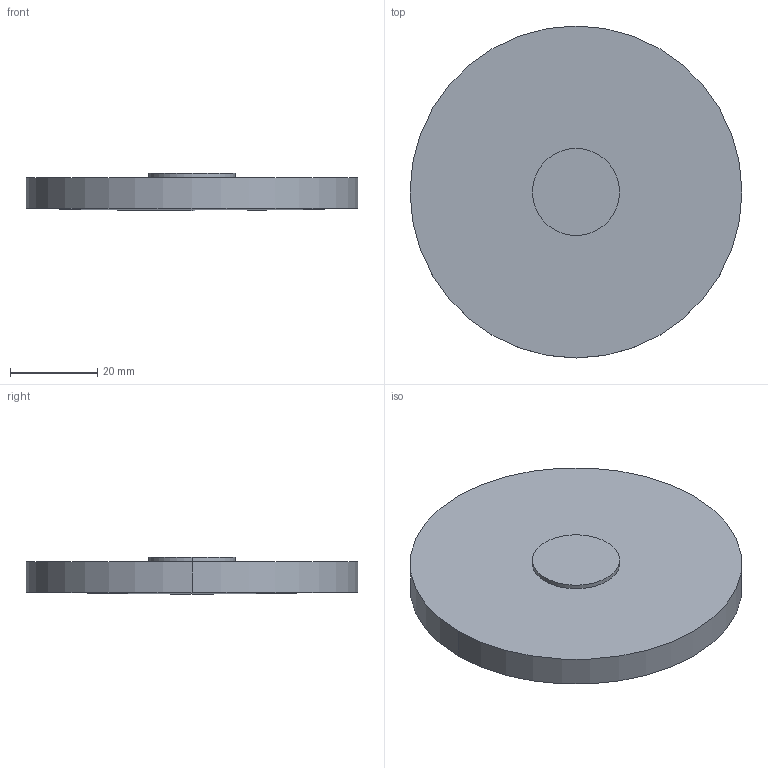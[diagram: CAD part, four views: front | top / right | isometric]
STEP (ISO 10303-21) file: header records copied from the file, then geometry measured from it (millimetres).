
FILE_DESCRIPTION(('STEP AP214'),'1');
FILE_NAME('LL-76-2M.STEP','2020-03-09T17:41:19',(' '),(' '),'Spatial InterOp 3D',' ',' ');
FILE_SCHEMA(('AUTOMOTIVE_DESIGN { 1 0 10303 214 1 1 1 1 }'));
Length unit declared in the file: millimetre
Products named in the file (1): 1
Bounding box: 76.2 x 76.2 x 8.5 mm (x, y, z)
Volume: 33345.1 mm3; surface area: 11485.1 mm2
Topology: 2 solids, 2 shells, 9 faces, 16 edges, 9 vertices
Faces by surface type: cylinder 4, plane 3, sphere 2
Entity records: 229 total; most frequent: DIRECTION 46, CARTESIAN_POINT 34, ORIENTED_EDGE 28, AXIS2_PLACEMENT_3D 21, EDGE_CURVE 14, CIRCLE 10, ADVANCED_FACE 9, FACE_OUTER_BOUND 9
